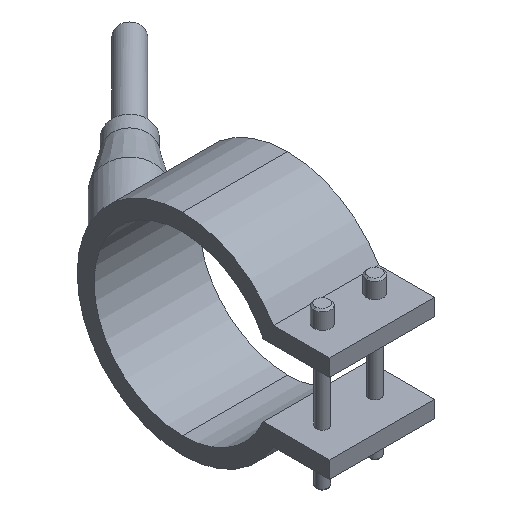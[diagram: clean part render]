
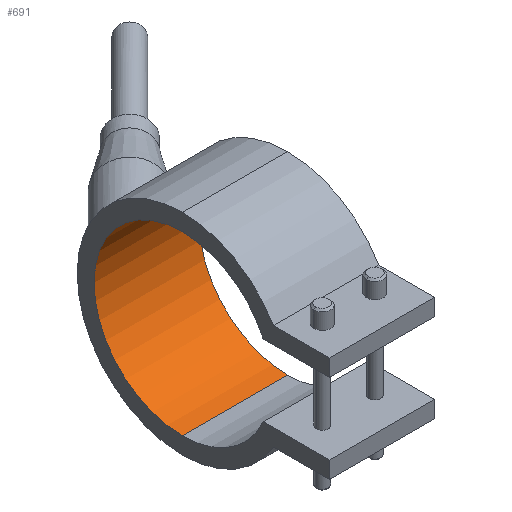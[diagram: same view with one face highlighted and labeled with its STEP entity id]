
A CAD part, isometric view. The second image highlights one B-rep face of the part: STEP entity #691.
In plain terms, the highlighted cylindrical face has radius 21 mm (diameter 42 mm), a partial arc.
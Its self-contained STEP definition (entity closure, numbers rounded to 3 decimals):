
#361=CARTESIAN_POINT('Vertex',(12.5,0.,21.)) ;
#366=CARTESIAN_POINT('Axis2P3D Location',(12.5,0.,0.)) ;
#370=CARTESIAN_POINT('Vertex',(12.5,0.,-21.)) ;
#477=CARTESIAN_POINT('Vertex',(-12.5,0.,-21.)) ;
#480=CARTESIAN_POINT('Axis2P3D Location',(-12.5,0.,0.)) ;
#484=CARTESIAN_POINT('Vertex',(-12.5,0.,21.)) ;
#663=CARTESIAN_POINT('Line Origine',(12.5,0.,21.)) ;
#675=CARTESIAN_POINT('Axis2P3D Location',(12.5,0.,0.)) ;
#680=CARTESIAN_POINT('Line Origine',(12.5,0.,-21.)) ;
#367=DIRECTION('Axis2P3D Direction',(1.,0.,0.)) ;
#481=DIRECTION('Axis2P3D Direction',(1.,0.,0.)) ;
#664=DIRECTION('Vector Direction',(1.,0.,0.)) ;
#676=DIRECTION('Axis2P3D Direction',(1.,0.,-0.)) ;
#677=DIRECTION('Axis2P3D XDirection',(0.,0.,-1.)) ;
#681=DIRECTION('Vector Direction',(1.,0.,0.)) ;
#368=AXIS2_PLACEMENT_3D('Circle Axis2P3D',#366,#367,$) ;
#482=AXIS2_PLACEMENT_3D('Circle Axis2P3D',#480,#481,$) ;
#678=AXIS2_PLACEMENT_3D('Cylinder Axis2P3D',#675,#676,#677) ;
#686=ORIENTED_EDGE('',*,*,#372,.T.) ;
#687=ORIENTED_EDGE('',*,*,#667,.T.) ;
#688=ORIENTED_EDGE('',*,*,#486,.F.) ;
#689=ORIENTED_EDGE('',*,*,#684,.T.) ;
#665=VECTOR('Line Direction',#664,1.) ;
#682=VECTOR('Line Direction',#681,1.) ;
#691=ADVANCED_FACE('29042025',(#690),#679,.F.) ;
#369=CIRCLE('generated circle',#368,21.) ;
#483=CIRCLE('generated circle',#482,21.) ;
#679=CYLINDRICAL_SURFACE('generated cylinder',#678,21.) ;
#372=EDGE_CURVE('',#371,#362,#369,.T.) ;
#486=EDGE_CURVE('',#478,#485,#483,.T.) ;
#667=EDGE_CURVE('',#362,#485,#666,.F.) ;
#684=EDGE_CURVE('',#478,#371,#683,.T.) ;
#685=EDGE_LOOP('',(#686,#687,#688,#689)) ;
#690=FACE_OUTER_BOUND('',#685,.T.) ;
#666=LINE('Line',#663,#665) ;
#683=LINE('Line',#680,#682) ;
#362=VERTEX_POINT('',#361) ;
#371=VERTEX_POINT('',#370) ;
#478=VERTEX_POINT('',#477) ;
#485=VERTEX_POINT('',#484) ;
